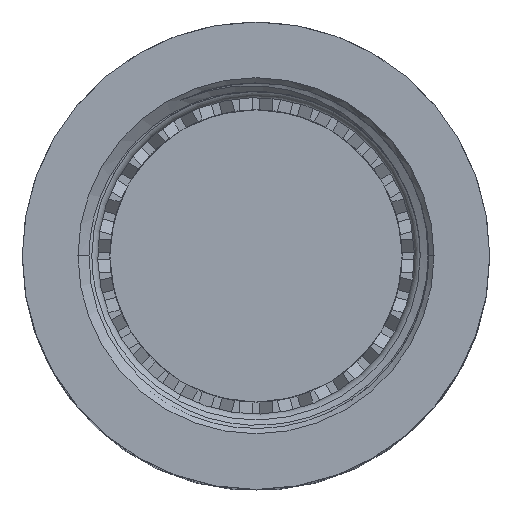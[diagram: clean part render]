
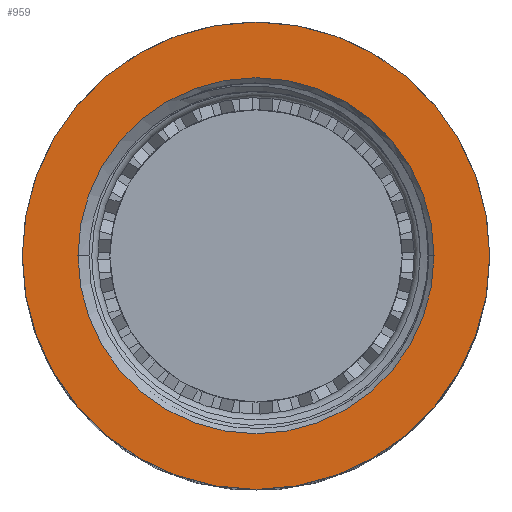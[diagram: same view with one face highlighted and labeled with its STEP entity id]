
A CAD part, top view. The second image highlights one B-rep face of the part: STEP entity #959.
In plain terms, the highlighted planar face has unit normal (0, 0, 1).
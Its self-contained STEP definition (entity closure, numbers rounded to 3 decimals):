
#30 = AXIS2_PLACEMENT_3D ( 'NONE', #1730, #3908, #4479 ) ;
#162 = CARTESIAN_POINT ( 'NONE',  ( 11.252, 0., 5.664 ) ) ;
#286 = DIRECTION ( 'NONE',  ( 0., 0., -1. ) ) ;
#778 = CIRCLE ( 'NONE', #6579, 11.252 ) ;
#832 = CARTESIAN_POINT ( 'NONE',  ( 0., 0., 5.664 ) ) ;
#840 = ORIENTED_EDGE ( 'NONE', *, *, #4979, .F. ) ;
#856 = ORIENTED_EDGE ( 'NONE', *, *, #7004, .F. ) ;
#959 = ADVANCED_FACE ( 'NONE', ( #4481, #1156 ), #1311, .T. ) ;
#985 = VERTEX_POINT ( 'NONE', #4409 ) ;
#992 = DIRECTION ( 'NONE',  ( 0., 0., -1. ) ) ;
#1126 = VERTEX_POINT ( 'NONE', #2025 ) ;
#1156 = FACE_OUTER_BOUND ( 'NONE', #6401, .T. ) ;
#1311 = PLANE ( 'NONE',  #5572 ) ;
#1321 = EDGE_CURVE ( 'NONE', #985, #4141, #2859, .T. ) ;
#1730 = CARTESIAN_POINT ( 'NONE',  ( 0., 0., 5.664 ) ) ;
#1835 = AXIS2_PLACEMENT_3D ( 'NONE', #4543, #4585, #6709 ) ;
#2025 = CARTESIAN_POINT ( 'NONE',  ( -14.77, 0., 5.664 ) ) ;
#2393 = DIRECTION ( 'NONE',  ( 0., 0., 1. ) ) ;
#2490 = DIRECTION ( 'NONE',  ( 1., 0., 0. ) ) ;
#2672 = DIRECTION ( 'NONE',  ( 1., 0., 0. ) ) ;
#2707 = EDGE_CURVE ( 'NONE', #4141, #985, #778, .T. ) ;
#2846 = CARTESIAN_POINT ( 'NONE',  ( 14.77, 0., 5.664 ) ) ;
#2859 = CIRCLE ( 'NONE', #1835, 11.252 ) ;
#3011 = ORIENTED_EDGE ( 'NONE', *, *, #1321, .T. ) ;
#3147 = CIRCLE ( 'NONE', #4964, 14.77 ) ;
#3158 = EDGE_LOOP ( 'NONE', ( #5043, #3011 ) ) ;
#3908 = DIRECTION ( 'NONE',  ( 0., 0., -1. ) ) ;
#4141 = VERTEX_POINT ( 'NONE', #162 ) ;
#4275 = CARTESIAN_POINT ( 'NONE',  ( 0., 0., 5.664 ) ) ;
#4409 = CARTESIAN_POINT ( 'NONE',  ( -11.252, 0., 5.664 ) ) ;
#4479 = DIRECTION ( 'NONE',  ( 1., 0., 0. ) ) ;
#4481 = FACE_BOUND ( 'NONE', #3158, .T. ) ;
#4543 = CARTESIAN_POINT ( 'NONE',  ( 0., 0., 5.664 ) ) ;
#4562 = DIRECTION ( 'NONE',  ( -1., 0., 0. ) ) ;
#4585 = DIRECTION ( 'NONE',  ( 0., 0., -1. ) ) ;
#4964 = AXIS2_PLACEMENT_3D ( 'NONE', #4275, #992, #2672 ) ;
#4979 = EDGE_CURVE ( 'NONE', #6400, #1126, #6426, .T. ) ;
#5043 = ORIENTED_EDGE ( 'NONE', *, *, #2707, .T. ) ;
#5572 = AXIS2_PLACEMENT_3D ( 'NONE', #2846, #2393, #4562 ) ;
#6400 = VERTEX_POINT ( 'NONE', #6865 ) ;
#6401 = EDGE_LOOP ( 'NONE', ( #840, #856 ) ) ;
#6426 = CIRCLE ( 'NONE', #30, 14.77 ) ;
#6579 = AXIS2_PLACEMENT_3D ( 'NONE', #832, #286, #2490 ) ;
#6709 = DIRECTION ( 'NONE',  ( 1., 0., 0. ) ) ;
#6865 = CARTESIAN_POINT ( 'NONE',  ( 14.77, 0., 5.664 ) ) ;
#7004 = EDGE_CURVE ( 'NONE', #1126, #6400, #3147, .T. ) ;
